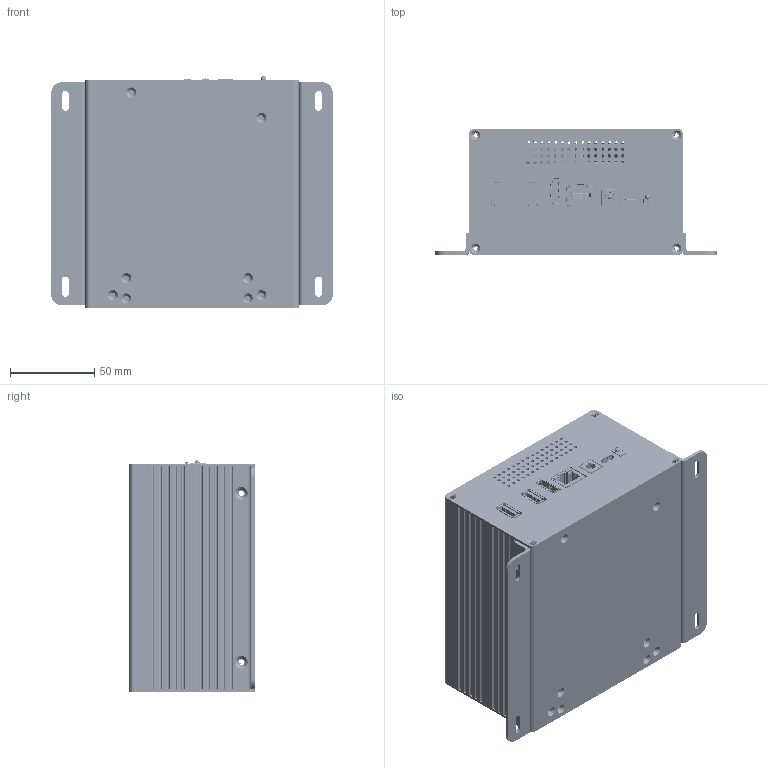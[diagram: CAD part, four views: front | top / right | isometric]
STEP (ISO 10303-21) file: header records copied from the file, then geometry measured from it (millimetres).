
FILE_DESCRIPTION((''),'2;1');
FILE_NAME('9F1E5_ASM','2025-11-27T10:22:19',('Lenovo'),(''),'CREO PARAMETRIC BY PTC INC, 2022073','CREO PARAMETRIC BY PTC INC, 2022073','');
FILE_SCHEMA(('AUTOMOTIVE_DESIGN { 1 0 10303 214 1 1 1 1 }'));
Products named in the file (556): 0005; 9F1E10002; 9F1E10003; M3X250001; 9F1E100; 9F1E1_2__9F1E10001_ASM; 9F1E1000; MPCIE-8265D2W-WIFI00; USB3_A-USB3_A-E_Y-C9_Y-C9-DEV; LED; C-2-406549-4-R-3D_RJ45_; 0004; NONE-21125; NONE-43868; NONE-44836; NONE-47871; NONE-54630; NONE-153938; NONE-155979; NONE-172046; NONE-201561; M_2_Y-C9_Y-C9-DEV_ASM; NONE-73115; NONE-165530; NONE-175705; NONE-189079; DC-042C-Z-25-A_0001_ASM; USB3_00001; C-2345986-1-1-3DUS0001; _______Y-C9_Y-C9-DEV; M_2____1_5MM_Y-C9_Y-C9-DEV; NONE-51960; NONE-56894; C-2007435-1-D-3DHD0001_ASM; USB_MICRO_B; NONE-19879; NONE-20488; NONE-21749; NONE-22359; NONE-24792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
Assembly tree (571 placements, depth 7):
  9F1E5_ASM
    9F1E520250825000_ASM
      0005
      9F1E1_2__9F1E10001_ASM
        9F1E10002  x2
        9F1E10003
        M3X250001  x2
        9F1E100
      9F1E1000
      M3X250001  x2
      MPCIE-8265D2W-WIFI00
      Y-C9-DEV_ASM
        Y-C9_Y-C9-DEV_ASM
          USB3_A-USB3_A-E_Y-C9_Y-C9-DEV  x2
          LED
          C-2-406549-4-R-3D_RJ45_
          0004  x3
          M_2_Y-C9_Y-C9-DEV_ASM
            NONE-21125
            NONE-43868
            NONE-44836
            NONE-47871
            NONE-54630
            NONE-153938
            NONE-155979
            NONE-172046
            NONE-201561
          DC-042C-Z-25-A_0001_ASM
            NONE-73115
            NONE-165530
            NONE-175705
            NONE-189079
          USB3_00001
          C-2345986-1-1-3DUS0001
          _______Y-C9_Y-C9-DEV
          M_2____1_5MM_Y-C9_Y-C9-DEV
          C-2007435-1-D-3DHD0001_ASM
            NONE-51960
            NONE-56894
          USB_MICRO_B
          Y-CS8-V1-0_220118_Y-C9_Y-C9-DEV_ASM
            NONE-19879
            NONE-20488
            NONE-21749
            NONE-22359
            NONE-24792
            NONE-26011
            NONE-27269
            NONE-27494
            NONE-27883
            NONE-28104
            NONE-28499
            NONE-28716
            NONE-29332
            NONE-29705
            NONE-29913
            NONE-30517
            NONE-30931
            NONE-31151
            NONE-31539
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Bounding box: 166.7 x 74.51 x 137.25 mm (x, y, z)
Volume: 359005.6 mm3; surface area: 408087 mm2
Topology: 557 solids, 557 shells, 13003 faces, 34347 edges, 22389 vertices
Faces by surface type: plane 9595, cylinder 2851, sphere 219, cone 188, bspline 92, torus 29, extrusion 29
Entity records: 403824 total; most frequent: CARTESIAN_POINT 78033, DIRECTION 62267, ORIENTED_EDGE 60902, EDGE_CURVE 30451, VECTOR 23739, LINE 23710, VERTEX_POINT 19957, AXIS2_PLACEMENT_3D 19264
